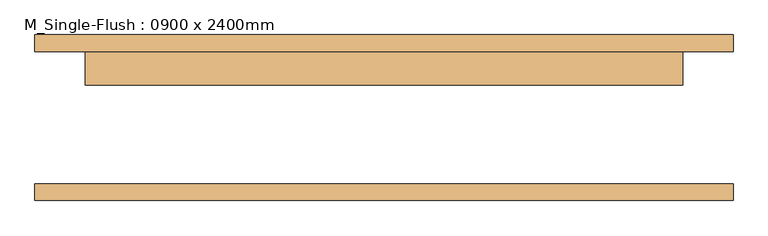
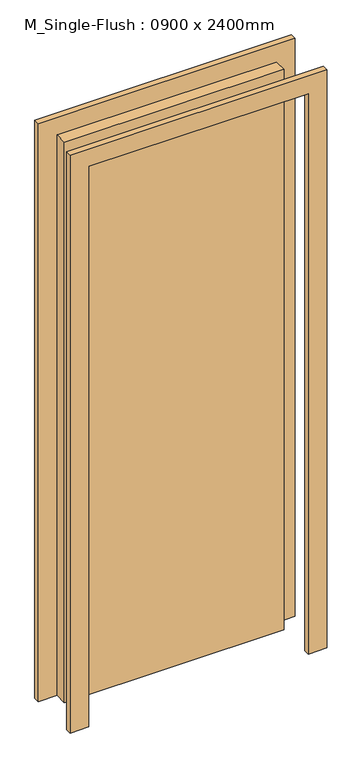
"""IFC4 building model written with IfcOpenShell, lengths in millimetres: door geometry, M_Single-Flush : 0900 x 2400mm."""

import ifcopenshell
import ifcopenshell.guid

model = None  # the IFC model being written
_history = None  # IfcOwnerHistory: only IFC2X3 demands one
_inside = {}  # id of a spatial element -> (the spatial element, [elements in it])
_under = {}  # id of a project, library or spatial element -> (it, [spatial elements below it])
_declared = {}  # id of a project -> (the project, [libraries it declares])
_typed = {}  # id of a type object -> (the type object, [elements of that type])
_made_of = {}  # id of a material, layer set ... -> (it, [elements and type objects made of it])


def new_model(schema):
    """Start an empty IFC model of exactly this schema.

    Asked for "IFC4X3", IfcOpenShell would pick the latest addendum, in which some entities
    have other attributes; the version numbers below select the first issue.
    IFC2X3 requires an IfcOwnerHistory on every rooted entity: one is made here for all.
    """
    global model, _history
    if schema == "IFC4X3":
        model = ifcopenshell.file(schema_version=(4, 3, 0, 0))
    else:
        model = ifcopenshell.file(schema=schema)
    _inside.clear()
    _under.clear()
    _declared.clear()
    _typed.clear()
    _made_of.clear()
    _history = None
    if model.schema == "IFC2X3":
        org = make("IfcOrganization", Name="unknown")
        user = make(
            "IfcPersonAndOrganization",
            ThePerson=make("IfcPerson", FamilyName="unknown"),
            TheOrganization=org,
        )
        app = make(
            "IfcApplication",
            ApplicationDeveloper=org,
            Version="unknown",
            ApplicationFullName="unknown",
            ApplicationIdentifier="unknown",
        )
        _history = make(
            "IfcOwnerHistory",
            OwningUser=user,
            OwningApplication=app,
            ChangeAction="ADDED",
            CreationDate=0,
        )
    return model


def make(cls, **values):
    """One entity of the class cls with the attributes given. An attribute that is None is left unset."""
    return model.create_entity(
        cls, **{name: value for name, value in values.items() if value is not None}
    )


def rooted(cls, **values):
    """An entity with a GlobalId (a new one), such as an element, a storey or a relation."""
    return make(cls, GlobalId=ifcopenshell.guid.new(), OwnerHistory=_history, **values)


def si_unit(unit_type, name, prefix=None):
    """IfcSIUnit, for example si_unit("LENGTHUNIT", "METRE", prefix="MILLI")."""
    return make("IfcSIUnit", UnitType=unit_type, Prefix=prefix, Name=name)


def assignment(units):
    """IfcUnitAssignment: the units of a project."""
    return None if units is None else make("IfcUnitAssignment", Units=units)


def point(xyz):
    """IfcCartesianPoint."""
    return None if xyz is None else make("IfcCartesianPoint", Coordinates=xyz)


def direction(xyz):
    """IfcDirection."""
    return None if xyz is None else make("IfcDirection", DirectionRatios=xyz)


def frame(location, z_axis=None, x_axis=None):
    """IfcAxis2Placement3D, a coordinate frame: its origin and axes. An axis left out is left unset."""
    return make(
        "IfcAxis2Placement3D",
        Location=point(location),
        Axis=direction(z_axis),
        RefDirection=direction(x_axis),
    )


def origin():
    """The frame at (0, 0, 0) with its axes left unset."""
    return frame((0.0, 0.0, 0.0))


def origin_with_axes():
    """The frame at (0, 0, 0) with the z axis (0, 0, 1) and the x axis (1, 0, 0) written out."""
    return frame((0.0, 0.0, 0.0), z_axis=(0.0, 0.0, 1.0), x_axis=(1.0, 0.0, 0.0))


def place(relative_to, where):
    """IfcLocalPlacement: puts the frame where relative to a parent placement (None: the world)."""
    return make(
        "IfcLocalPlacement", PlacementRelTo=relative_to, RelativePlacement=where
    )


def context(
    kind, dimensions, precision=None, world=None, true_north=None, identifier=None
):
    """IfcGeometricRepresentationContext, for example the 3D "Model" context."""
    return make(
        "IfcGeometricRepresentationContext",
        ContextIdentifier=identifier,
        ContextType=kind,
        CoordinateSpaceDimension=dimensions,
        Precision=precision,
        WorldCoordinateSystem=world,
        TrueNorth=true_north,
    )


def project(units=None, contexts=None):
    """IfcProject with its units and contexts."""
    return rooted(
        "IfcProject",
        Name="project",
        RepresentationContexts=contexts,
        UnitsInContext=assignment(units),
    )


def spatial(cls, under=None, at=None, **own):
    """A site, building, storey or space (cls), placed at a placement, below another one or the project."""
    s = rooted(cls, ObjectPlacement=at, **own)
    if under is not None:
        _under.setdefault(under.id(), (under, []))[1].append(s)
    return s


def polyline(points):
    """IfcPolyline through the points."""
    return make("IfcPolyline", Points=[point(p) for p in points])


def outline(outer, holes=None, kind="AREA"):
    """IfcArbitraryClosedProfileDef: a profile drawn as a closed curve; with holes, ...WithVoids."""
    if holes is None:
        return make("IfcArbitraryClosedProfileDef", ProfileType=kind, OuterCurve=outer)
    return make(
        "IfcArbitraryProfileDefWithVoids",
        ProfileType=kind,
        OuterCurve=outer,
        InnerCurves=holes,
    )


def extrude(swept, where, along, depth):
    """IfcExtrudedAreaSolid: the profile swept, set in the frame where, extruded along a direction by depth."""
    return make(
        "IfcExtrudedAreaSolid",
        SweptArea=swept,
        Position=where,
        ExtrudedDirection=direction(along),
        Depth=depth,
    )


def shape(context_of_items, identifier, shape_type, items):
    """IfcShapeRepresentation: the items that make up one representation, for example the "Body"."""
    return make(
        "IfcShapeRepresentation",
        ContextOfItems=context_of_items,
        RepresentationIdentifier=identifier,
        RepresentationType=shape_type,
        Items=items,
    )


def source(mapping_origin, context_of_items, identifier, shape_type, items):
    """IfcRepresentationMap: a shape defined once, which mapped items show again and again."""
    return make(
        "IfcRepresentationMap",
        MappingOrigin=mapping_origin,
        MappedRepresentation=shape(context_of_items, identifier, shape_type, items),
    )


def transform(
    local_origin,
    x_axis=None,
    y_axis=None,
    z_axis=None,
    scale=None,
    scale2=None,
    scale3=None,
    uniform=True,
):
    """IfcCartesianTransformationOperator3D, or its non-uniform kind. x_axis, y_axis, z_axis: its Axis1, 2, 3."""
    if uniform:
        return make(
            "IfcCartesianTransformationOperator3D",
            Axis1=direction(x_axis),
            Axis2=direction(y_axis),
            LocalOrigin=point(local_origin),
            Scale=scale,
            Axis3=direction(z_axis),
        )
    return make(
        "IfcCartesianTransformationOperator3DnonUniform",
        Axis1=direction(x_axis),
        Axis2=direction(y_axis),
        LocalOrigin=point(local_origin),
        Scale=scale,
        Axis3=direction(z_axis),
        Scale2=scale2,
        Scale3=scale3,
    )


def mapped(mapping_source, mapping_target):
    """IfcMappedItem: shows the shape of a source again, moved by a transform."""
    return make(
        "IfcMappedItem", MappingSource=mapping_source, MappingTarget=mapping_target
    )


def made_of(thing, what):
    """Note that an element or type object is made of a material, layer set ...; save() writes the relation."""
    if what is not None:
        _made_of.setdefault(what.id(), (what, []))[1].append(thing)
    return thing


def element(
    cls,
    number,
    at=None,
    inside=None,
    cuts=None,
    type_object=None,
    material=None,
    context=None,
    identifier="Body",
    shape_type=None,
    held_by="IfcProductDefinitionShape",
    body=None,
    shapes=None,
    **own,
):
    """One element of the class cls, such as IfcWall. Its Tag is "e" and its number.

    at: its placement. inside: the storey or other place that contains it. cuts: it is an
    opening in that element (IfcRelVoidsElement). A single representation is given by context,
    identifier, shape_type and body (its items); several are given by shapes. held_by: the class
    of the entity that holds the representations. save() writes the other relations.
    """
    e = rooted(cls, Tag="e%d" % number, ObjectPlacement=at, **own)
    if body is not None:
        shapes = [shape(context, identifier, shape_type, body)]
    if shapes is not None:
        e.Representation = make(held_by, Representations=shapes)
    if inside is not None:
        _inside.setdefault(inside.id(), (inside, []))[1].append(e)
    if cuts is not None:
        rooted(
            "IfcRelVoidsElement", RelatingBuildingElement=cuts, RelatedOpeningElement=e
        )
    if type_object is not None:
        _typed.setdefault(type_object.id(), (type_object, []))[1].append(e)
    return made_of(e, material)


def aggregate(whole, parts):
    """IfcRelAggregates: a whole, such as a stair, and the parts it consists of."""
    return rooted("IfcRelAggregates", RelatingObject=whole, RelatedObjects=parts)


def save(model, path):
    """Write the relations noted so far, then the file.

    IfcRelAggregates (storeys below a building ...), IfcRelContainedInSpatialStructure (elements
    in a storey), IfcRelDefinesByType, IfcRelAssociatesMaterial and IfcRelDeclares: one each for
    every whole, place, type object, material and project.
    """
    for whole, parts in _under.values():
        aggregate(whole, parts)
    for where, things in _inside.values():
        rooted(
            "IfcRelContainedInSpatialStructure",
            RelatedElements=things,
            RelatingStructure=where,
        )
    for kind, things in _typed.values():
        rooted("IfcRelDefinesByType", RelatedObjects=things, RelatingType=kind)
    for what, things in _made_of.values():
        rooted("IfcRelAssociatesMaterial", RelatedObjects=things, RelatingMaterial=what)
    for by, libraries in _declared.values():
        rooted("IfcRelDeclares", RelatingContext=by, RelatedDefinitions=libraries)
    model.write(path)


def m_single_flush_0900_x_2400mm_8538d4a5(model_context):
    return source(origin(), model_context, "Body", "SweptSolid", [
        extrude(outline(polyline([(450.0, 49.0), (-450.0, 49.0), (-450.0, 100.0), (450.0, 100.0), (450.0, 49.0)])), origin_with_axes(), (0.0, 0.0, 1.0), 2425.0),
        extrude(outline(polyline([(2501.0, -526.0), (0.0, -526.0), (0.0, -450.0), (2425.0, -450.0), (2425.0, 450.0), (0.0, 450.0), (0.0, 526.0), (2501.0, 526.0), (2501.0, -526.0)])), frame((0.0, 100.0, 0.0), z_axis=(0.0, 1.0, 0.0), x_axis=(0.0, 0.0, 1.0)), (0.0, 0.0, 1.0), 25.0),
        extrude(outline(polyline([(2501.0, 526.0), (2501.0, -526.0), (0.0, -526.0), (0.0, -450.0), (2425.0, -450.0), (2425.0, 450.0), (0.0, 450.0), (0.0, 526.0), (2501.0, 526.0)])), frame((0.0, -125.0, 0.0), z_axis=(0.0, 1.0, 0.0), x_axis=(0.0, 0.0, 1.0)), (0.0, 0.0, 1.0), 25.0),
    ])


if __name__ == "__main__":
    model = new_model("IFC4")
    model_context = context("Model", 3, world=origin())
    ifc_project = project(units=[si_unit("LENGTHUNIT", "METRE", prefix="MILLI")], contexts=[model_context])
    site = spatial("IfcSite", under=ifc_project)
    building = spatial("IfcBuilding", under=site)
    placement = place(None, origin())
    m_single_flush_0900_x_2400mm_shape = m_single_flush_0900_x_2400mm_8538d4a5(model_context)
    element("IfcDoor", 1, ObjectType="M_Single-Flush : 0900 x 2400mm", at=placement, inside=building, context=model_context, shape_type="MappedRepresentation", body=[
        mapped(m_single_flush_0900_x_2400mm_shape, transform((0.0, 0.0, 0.0), x_axis=(1.0, 0.0, 0.0), y_axis=(0.0, 1.0, 0.0), z_axis=(0.0, 0.0, 1.0))),
    ])
    save(model, "model.ifc")
